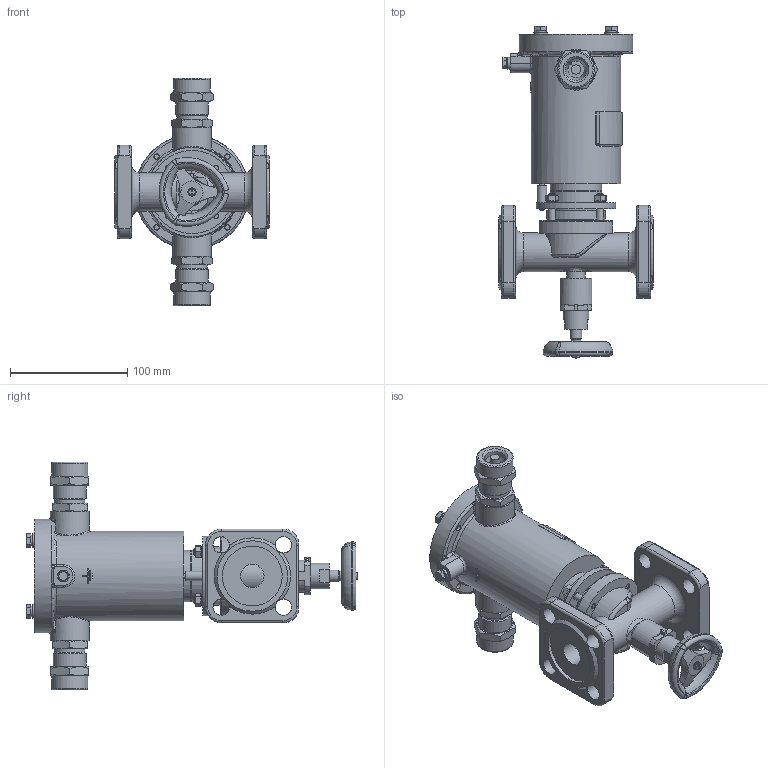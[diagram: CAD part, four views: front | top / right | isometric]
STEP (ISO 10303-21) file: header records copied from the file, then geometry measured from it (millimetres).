
FILE_DESCRIPTION(('STEP AP203'), '1');
FILE_NAME('ÑÅÍÑ-ÏÔ DN20PN25.stp', '2018-10-09T08:09:51', ('Îðëîâ Å.Â.'), ('ÎÎÎ ÍÏÏ Ñåíñîð'), 'ASCON STEP Converter 1.3', 'Kompas 3D', '');
FILE_SCHEMA(('CONFIG_CONTROL_DESIGN','SUPPORT_RESOURCE_SCHEMA'));
Length unit declared in the file: millimetre
Products named in the file (1): 70
Bounding box: 132 x 282.7 x 194 mm (x, y, z)
Volume: 677360.4 mm3; surface area: 223273 mm2
Topology: 3 solids, 19 shells, 2080 faces, 5589 edges, 3652 vertices
Faces by surface type: cylinder 1020, plane 777, cone 138, torus 84, bspline 45, extrusion 16
Full cylindrical faces by diameter (mm): 2 x1, 2.459 x5, 3 x1, 3.2 x1, 4 x8, 4.134 x1, 4.5 x2, 4.917 x8, 5 x2, 5.5 x1, 6 x15, 6.5 x10, 7 x1, 7.8 x1, 8 x7, 10 x3, 12 x4, 13 x2, 14 x8, 15.75 x1, 16 x3, 18.632 x2, 20 x5, 21 x1, 22 x4, 22.376 x2, 23.5 x3, 24 x3, 24.5 x3, 25 x2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
Entity records: 83683 total; most frequent: CARTESIAN_POINT 30513, DIRECTION 11407, ORIENTED_EDGE 11152, EDGE_CURVE 5576, AXIS2_PLACEMENT_3D 4407, VERTEX_POINT 3652, VECTOR 2593, LINE 2577
